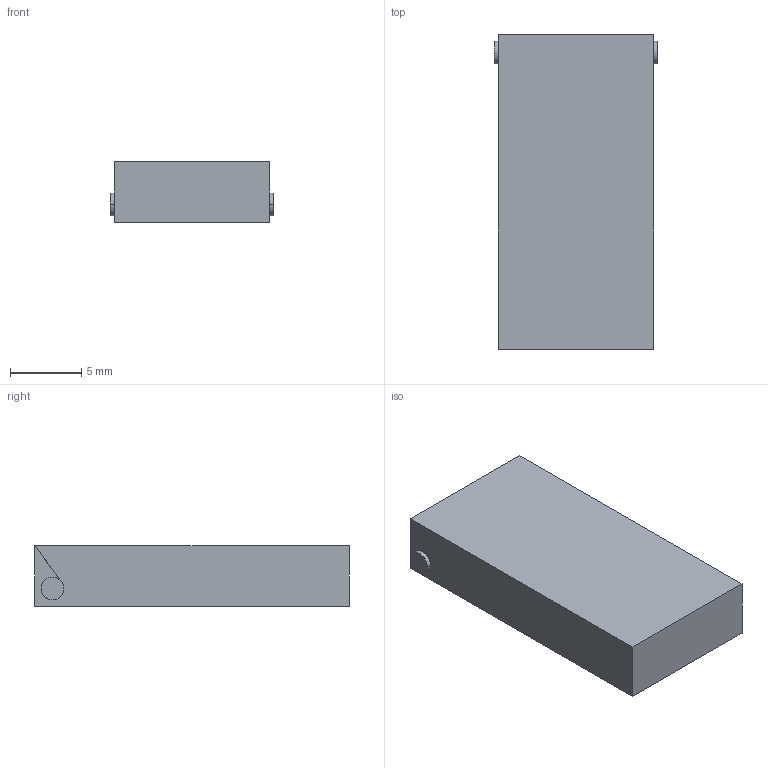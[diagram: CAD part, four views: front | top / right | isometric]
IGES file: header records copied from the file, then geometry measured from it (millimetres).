
Start section:  PTC IGES file: j5d-cov-cn40b.igs
Global section: file name: j5d-cov-cn40b.igs; native system: Creo Parametric by PTC Inc.; preprocessor: 2020184; author: VX25986; organization: Unknown; date: 20210323.200202; units: millimetre
Bounding box: 11.5 x 22.1 x 4.25 mm (x, y, z)
Surface area: 913.8 mm2 (no closed solid volume)
Topology: 0 solids, 0 shells, 17 faces, 72 edges, 72 vertices
Faces by surface type: bspline 17
